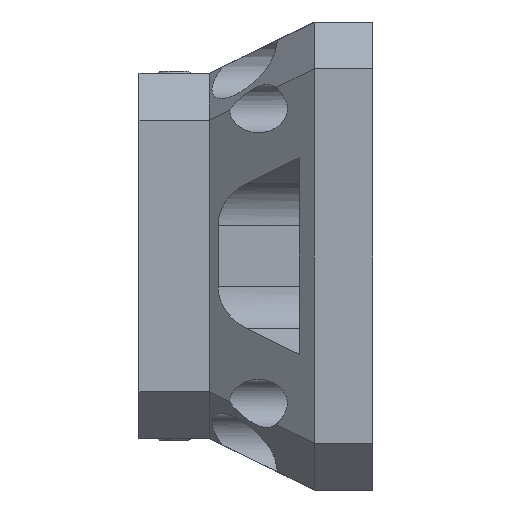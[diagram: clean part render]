
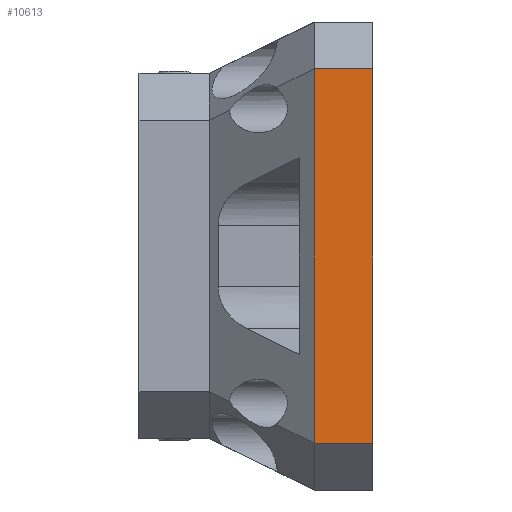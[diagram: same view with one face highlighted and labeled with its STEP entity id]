
A CAD part, left-side view. The second image highlights one B-rep face of the part: STEP entity #10613.
In plain terms, the highlighted planar face has unit normal (-1, 0, 0).
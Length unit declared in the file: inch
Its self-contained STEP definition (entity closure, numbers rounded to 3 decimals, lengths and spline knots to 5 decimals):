
#610 = ORIENTED_EDGE ( 'NONE', *, *, #2922, .T. ) ;
#795 = EDGE_CURVE ( 'NONE', #3987, #14512, #5415, .T. ) ;
#941 = DIRECTION ( 'NONE',  ( 0., 1., 0. ) ) ;
#1024 = EDGE_LOOP ( 'NONE', ( #11939, #610, #10132, #2179 ) ) ;
#1470 = FACE_OUTER_BOUND ( 'NONE', #1024, .T. ) ;
#2092 = DIRECTION ( 'NONE',  ( 0., 0., -1. ) ) ;
#2179 = ORIENTED_EDGE ( 'NONE', *, *, #6050, .T. ) ;
#2212 = VECTOR ( 'NONE', #6867, 39.37008 ) ;
#2922 = EDGE_CURVE ( 'NONE', #14512, #13697, #7868, .T. ) ;
#3122 = DIRECTION ( 'NONE',  ( 0., 0., -1. ) ) ;
#3319 = CARTESIAN_POINT ( 'NONE',  ( -7.87402, 0.98425, -3.14961 ) ) ;
#3356 = LINE ( 'NONE', #5777, #13274 ) ;
#3910 = CARTESIAN_POINT ( 'NONE',  ( -7.87402, 0., 3.93701 ) ) ;
#3987 = VERTEX_POINT ( 'NONE', #12416 ) ;
#4792 = LINE ( 'NONE', #13139, #12077 ) ;
#5415 = LINE ( 'NONE', #9311, #11727 ) ;
#5777 = CARTESIAN_POINT ( 'NONE',  ( -7.87402, 0., 3.93701 ) ) ;
#6050 = EDGE_CURVE ( 'NONE', #15221, #3987, #4792, .T. ) ;
#6867 = DIRECTION ( 'NONE',  ( 0., -1., 0. ) ) ;
#7149 = CARTESIAN_POINT ( 'NONE',  ( -7.87402, 0., 3.14961 ) ) ;
#7868 = LINE ( 'NONE', #14944, #2212 ) ;
#8649 = DIRECTION ( 'NONE',  ( 1., 0., 0. ) ) ;
#8950 = AXIS2_PLACEMENT_3D ( 'NONE', #3910, #8649, #3122 ) ;
#9311 = CARTESIAN_POINT ( 'NONE',  ( -7.87402, 0.98425, 3.93701 ) ) ;
#10132 = ORIENTED_EDGE ( 'NONE', *, *, #12812, .F. ) ;
#10613 = ADVANCED_FACE ( 'NONE', ( #1470 ), #11001, .F. ) ;
#11001 = PLANE ( 'NONE',  #8950 ) ;
#11421 = DIRECTION ( 'NONE',  ( 0., 0., -1. ) ) ;
#11727 = VECTOR ( 'NONE', #11421, 39.37008 ) ;
#11939 = ORIENTED_EDGE ( 'NONE', *, *, #795, .T. ) ;
#12077 = VECTOR ( 'NONE', #941, 39.37008 ) ;
#12416 = CARTESIAN_POINT ( 'NONE',  ( -7.87402, 0.98425, 3.14961 ) ) ;
#12556 = CARTESIAN_POINT ( 'NONE',  ( -7.87402, 0., -3.14961 ) ) ;
#12812 = EDGE_CURVE ( 'NONE', #15221, #13697, #3356, .T. ) ;
#13139 = CARTESIAN_POINT ( 'NONE',  ( -7.87402, 0., 3.14961 ) ) ;
#13274 = VECTOR ( 'NONE', #2092, 39.37008 ) ;
#13697 = VERTEX_POINT ( 'NONE', #12556 ) ;
#14512 = VERTEX_POINT ( 'NONE', #3319 ) ;
#14944 = CARTESIAN_POINT ( 'NONE',  ( -7.87402, 0., -3.14961 ) ) ;
#15221 = VERTEX_POINT ( 'NONE', #7149 ) ;
